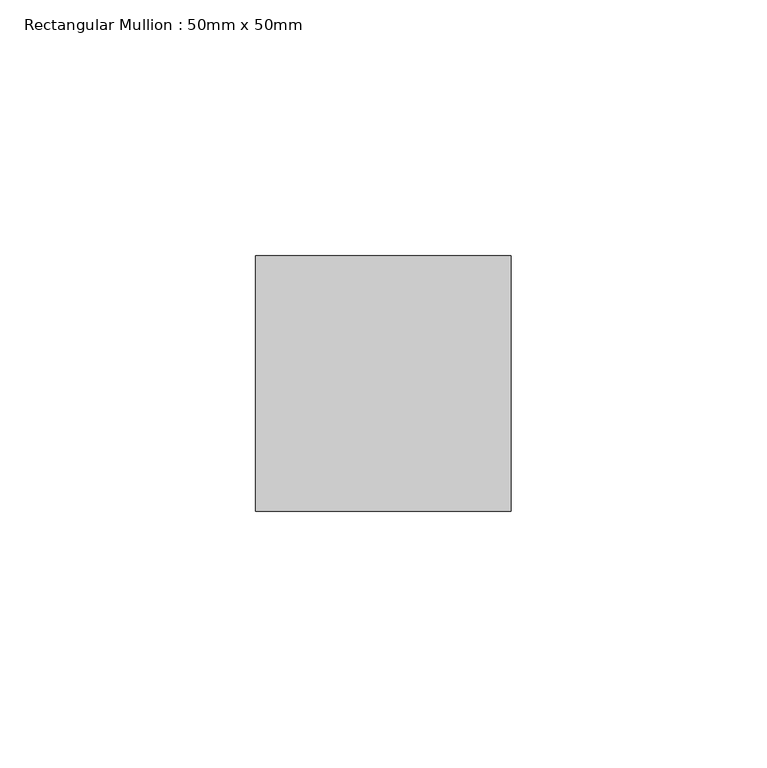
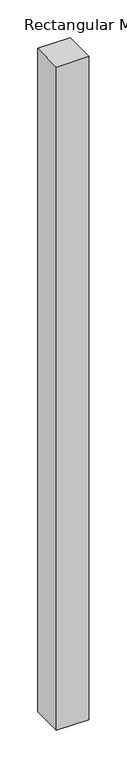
"""IFC4 building model written with IfcOpenShell, lengths in millimetres: member geometry, Rectangular Mullion : 50mm x 50mm."""

from ifc_helpers import new_model, si_unit, frame, origin, place, context, project, spatial, polyline, outline, extrude, source, transform, mapped, element, save


def rectangular_mullion_50mm_x_50mm_2435490b(model_context):
    return source(origin(), model_context, "Body", "SweptSolid", [
        extrude(outline(polyline([(0.0, 25.0), (0.0, -25.0), (-50.0, -25.0), (-50.0, 25.0), (0.0, 25.0)])), frame((0.0, 0.0, -1076.3895352), z_axis=(0.0, 0.0, 1.0), x_axis=(1.0, 0.0, 0.0)), (0.0, 0.0, 1.0), 1076.3895352),
    ])


if __name__ == "__main__":
    model = new_model("IFC4")
    model_context = context("Model", 3, world=origin())
    ifc_project = project(units=[si_unit("LENGTHUNIT", "METRE", prefix="MILLI")], contexts=[model_context])
    site = spatial("IfcSite", under=ifc_project)
    building = spatial("IfcBuilding", under=site)
    placement = place(None, origin())
    rectangular_mullion_50mm_x_50mm_shape = rectangular_mullion_50mm_x_50mm_2435490b(model_context)
    element("IfcMember", 1, ObjectType="Rectangular Mullion : 50mm x 50mm", at=placement, inside=building, context=model_context, shape_type="MappedRepresentation", body=[
        mapped(rectangular_mullion_50mm_x_50mm_shape, transform((0.0, 0.0, 0.0), x_axis=(1.0, 0.0, 0.0), y_axis=(0.0, 1.0, 0.0), z_axis=(0.0, 0.0, 1.0))),
    ])
    save(model, "model.ifc")
